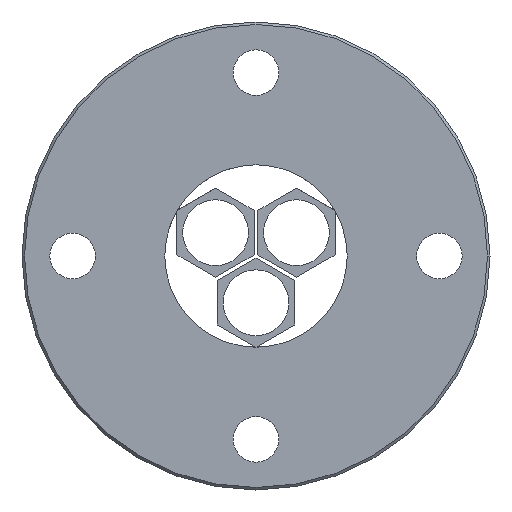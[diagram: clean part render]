
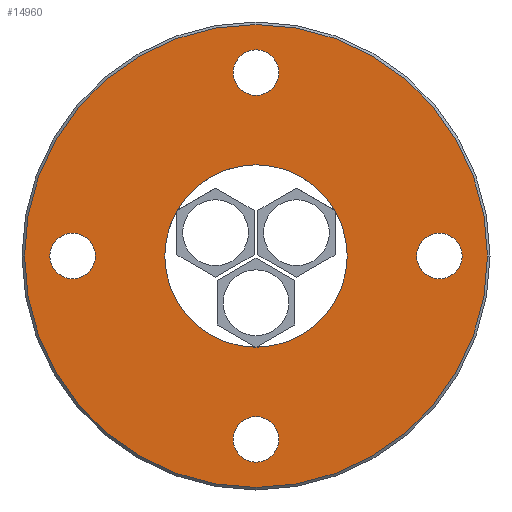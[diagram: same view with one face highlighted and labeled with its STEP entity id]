
A CAD part, left-side view. The second image highlights one B-rep face of the part: STEP entity #14960.
In plain terms, the highlighted planar face has unit normal (-1, 0, 0).
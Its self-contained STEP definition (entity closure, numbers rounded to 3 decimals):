
#5990=CARTESIAN_POINT('',(-63.,63.5,0.));
#6000=VERTEX_POINT('',#5990);
#6030=CARTESIAN_POINT('',(-63.,72.5,0.));
#6040=DIRECTION('',(-1.,0.,0.));
#6050=DIRECTION('',(0.,-1.,0.));
#6060=AXIS2_PLACEMENT_3D('',#6030,#6040,#6050);
#6070=CIRCLE('',#6060,9.);
#6080=CARTESIAN_POINT('',(-63.,81.5,0.));
#6090=VERTEX_POINT('',#6080);
#6100=EDGE_CURVE('',#6090,#6000,#6070,.T.);
#13980=CARTESIAN_POINT('',(-63.,36.05,0.));
#13990=VERTEX_POINT('',#13980);
#14070=CARTESIAN_POINT('',(-63.,-36.05,0.));
#14080=VERTEX_POINT('',#14070);
#14110=CARTESIAN_POINT('',(-63.,0.,0.));
#14120=DIRECTION('',(-1.,0.,0.));
#14130=DIRECTION('',(0.,-1.,0.));
#14140=AXIS2_PLACEMENT_3D('',#14110,#14120,#14130);
#14150=CIRCLE('',#14140,36.05);
#14160=EDGE_CURVE('',#13990,#14080,#14150,.T.);
#14210=CARTESIAN_POINT('',(-63.,36.773,-3.599));
#14220=DIRECTION('',(-1.,0.,0.));
#14230=DIRECTION('',(0.,-1.,0.));
#14240=AXIS2_PLACEMENT_3D('',#14210,#14220,#14230);
#14250=PLANE('',#14240);
#14260=CARTESIAN_POINT('',(-63.,0.,72.5));
#14270=DIRECTION('',(-1.,0.,0.));
#14280=DIRECTION('',(0.,-1.,0.));
#14290=AXIS2_PLACEMENT_3D('',#14260,#14270,#14280);
#14300=CIRCLE('',#14290,9.);
#14310=CARTESIAN_POINT('',(-63.,-9.,72.5));
#14320=VERTEX_POINT('',#14310);
#14330=CARTESIAN_POINT('',(-63.,9.,72.5));
#14340=VERTEX_POINT('',#14330);
#14350=EDGE_CURVE('',#14320,#14340,#14300,.T.);
#14360=ORIENTED_EDGE('',*,*,#14350,.F.);
#14370=EDGE_CURVE('',#14340,#14320,#14300,.T.);
#14380=ORIENTED_EDGE('',*,*,#14370,.F.);
#14390=EDGE_LOOP('',(#14380,#14360));
#14400=FACE_BOUND('',#14390,.T.);
#14410=CARTESIAN_POINT('',(-63.,0.,-72.5));
#14420=DIRECTION('',(-1.,0.,0.));
#14430=DIRECTION('',(0.,-1.,0.));
#14440=AXIS2_PLACEMENT_3D('',#14410,#14420,#14430);
#14450=CIRCLE('',#14440,9.);
#14460=CARTESIAN_POINT('',(-63.,-9.,-72.5));
#14470=VERTEX_POINT('',#14460);
#14480=CARTESIAN_POINT('',(-63.,9.,-72.5));
#14490=VERTEX_POINT('',#14480);
#14500=EDGE_CURVE('',#14470,#14490,#14450,.T.);
#14510=ORIENTED_EDGE('',*,*,#14500,.F.);
#14520=EDGE_CURVE('',#14490,#14470,#14450,.T.);
#14530=ORIENTED_EDGE('',*,*,#14520,.F.);
#14540=EDGE_LOOP('',(#14530,#14510));
#14550=FACE_BOUND('',#14540,.T.);
#14560=EDGE_CURVE('',#14080,#13990,#14150,.T.);
#14570=ORIENTED_EDGE('',*,*,#14560,.F.);
#14580=ORIENTED_EDGE('',*,*,#14160,.F.);
#14590=EDGE_LOOP('',(#14580,#14570));
#14600=FACE_BOUND('',#14590,.T.);
#14610=EDGE_CURVE('',#6000,#6090,#6070,.T.);
#14620=ORIENTED_EDGE('',*,*,#14610,.F.);
#14630=ORIENTED_EDGE('',*,*,#6100,.F.);
#14640=EDGE_LOOP('',(#14630,#14620));
#14650=FACE_BOUND('',#14640,.T.);
#14660=CARTESIAN_POINT('',(-63.,-72.5,0.));
#14670=DIRECTION('',(-1.,0.,0.));
#14680=DIRECTION('',(0.,-1.,0.));
#14690=AXIS2_PLACEMENT_3D('',#14660,#14670,#14680);
#14700=CIRCLE('',#14690,9.);
#14710=CARTESIAN_POINT('',(-63.,-81.5,0.));
#14720=VERTEX_POINT('',#14710);
#14730=CARTESIAN_POINT('',(-63.,-63.5,0.));
#14740=VERTEX_POINT('',#14730);
#14750=EDGE_CURVE('',#14720,#14740,#14700,.T.);
#14760=ORIENTED_EDGE('',*,*,#14750,.F.);
#14770=EDGE_CURVE('',#14740,#14720,#14700,.T.);
#14780=ORIENTED_EDGE('',*,*,#14770,.F.);
#14790=EDGE_LOOP('',(#14780,#14760));
#14800=FACE_BOUND('',#14790,.T.);
#14810=CARTESIAN_POINT('',(-63.,0.,0.));
#14820=DIRECTION('',(-1.,0.,0.));
#14830=DIRECTION('',(0.,1.,0.));
#14840=AXIS2_PLACEMENT_3D('',#14810,#14820,#14830);
#14850=CIRCLE('',#14840,91.5);
#14860=CARTESIAN_POINT('',(-63.,-91.5,0.));
#14870=VERTEX_POINT('',#14860);
#14880=CARTESIAN_POINT('',(-63.,91.5,0.));
#14890=VERTEX_POINT('',#14880);
#14900=EDGE_CURVE('',#14870,#14890,#14850,.T.);
#14910=ORIENTED_EDGE('',*,*,#14900,.T.);
#14920=EDGE_CURVE('',#14890,#14870,#14850,.T.);
#14930=ORIENTED_EDGE('',*,*,#14920,.T.);
#14940=EDGE_LOOP('',(#14930,#14910));
#14950=FACE_OUTER_BOUND('',#14940,.T.);
#14960=ADVANCED_FACE('',(#14400,#14550,#14600,#14650,#14800,#14950),
#14250,.T.);
